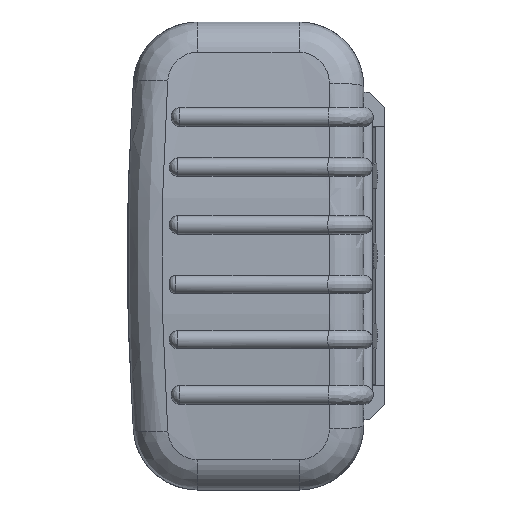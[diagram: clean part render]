
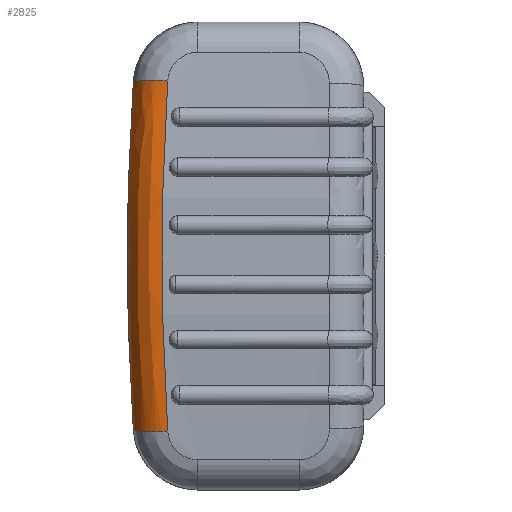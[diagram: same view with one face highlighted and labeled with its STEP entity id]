
A CAD part, left-side view. The second image highlights one B-rep face of the part: STEP entity #2825.
In plain terms, the highlighted free-form (B-spline) face has degree [3, 2] with [6, 3] control points.
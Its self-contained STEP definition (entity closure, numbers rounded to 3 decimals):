
#1558 = CARTESIAN_POINT ( 'NONE',  ( 88.505, 45.446, 40.548 ) ) ;
#1840 = CARTESIAN_POINT ( 'NONE',  ( 89.95, 46.334, -27.032 ) ) ;
#2825 = ADVANCED_FACE ( 'NONE', ( #24955 ), #21779, .T. ) ;
#3262 = CARTESIAN_POINT ( 'NONE',  ( 83.368, 55.225, 0. ) ) ;
#3802 = ORIENTED_EDGE ( 'NONE', *, *, #18348, .T. ) ;
#4005 = CARTESIAN_POINT ( 'NONE',  ( 88.505, 45.446, -40.548 ) ) ;
#4120 = CARTESIAN_POINT ( 'NONE',  ( 80.55, 53.428, -40.234 ) ) ;
#4215 = CARTESIAN_POINT ( 'NONE',  ( 90.667, 54.777, -13.695 ) ) ;
#5038 = VERTEX_POINT ( 'NONE', #14025 ) ;
#5349 = VERTEX_POINT ( 'NONE', #4005 ) ;
#5375 = CARTESIAN_POINT ( 'NONE',  ( 80.55, 45.446, 39.698 ) ) ;
#5608 = B_SPLINE_CURVE_WITH_KNOTS ( 'NONE', 3,
 ( #19004, #28537, #7135, #23805, #9547 ),
 .UNSPECIFIED., .F., .F.,
 ( 4, 1, 4 ),
 ( 0., 0.041, 0.081 ),
 .UNSPECIFIED. ) ;
#5628 = CARTESIAN_POINT ( 'NONE',  ( 80.55, 53.428, -40.234 ) ) ;
#5944 = B_SPLINE_CURVE_WITH_KNOTS ( 'NONE', 3,
 ( #17390, #15137, #3262, #19866, #5628 ),
 .UNSPECIFIED., .F., .F.,
 ( 4, 1, 4 ),
 ( 0., 0.04, 0.08 ),
 .UNSPECIFIED. ) ;
#6617 = CARTESIAN_POINT ( 'NONE',  ( 82.667, 54.777, 13.411 ) ) ;
#6693 = EDGE_CURVE ( 'NONE', #5038, #11713, #5944, .T. ) ;
#7135 = CARTESIAN_POINT ( 'NONE',  ( 91.383, 47.219, 0. ) ) ;
#7774 = DIRECTION ( 'NONE',  ( 0.994, 0., 0.106 ) ) ;
#8918 = CARTESIAN_POINT ( 'NONE',  ( 88.449, 53.371, -41.074 ) ) ;
#9000 = CARTESIAN_POINT ( 'NONE',  ( 90.667, 46.777, 13.516 ) ) ;
#9547 = CARTESIAN_POINT ( 'NONE',  ( 88.505, 45.446, 40.548 ) ) ;
#9640 = DIRECTION ( 'NONE',  ( 0.106, 0.067, 0.992 ) ) ;
#9800 = CIRCLE ( 'NONE', #20406, 8. ) ;
#11417 = CARTESIAN_POINT ( 'NONE',  ( 89.935, 54.311, 27.357 ) ) ;
#11713 = VERTEX_POINT ( 'NONE', #12342 ) ;
#12342 = CARTESIAN_POINT ( 'NONE',  ( 80.55, 53.428, -40.234 ) ) ;
#13722 = CARTESIAN_POINT ( 'NONE',  ( 88.505, 45.446, -40.548 ) ) ;
#13815 = CARTESIAN_POINT ( 'NONE',  ( 80.55, 53.428, 40.234 ) ) ;
#14025 = CARTESIAN_POINT ( 'NONE',  ( 80.55, 53.428, 40.234 ) ) ;
#15137 = CARTESIAN_POINT ( 'NONE',  ( 81.965, 54.328, 26.822 ) ) ;
#16104 = CARTESIAN_POINT ( 'NONE',  ( 89.935, 54.311, -27.357 ) ) ;
#16211 = CARTESIAN_POINT ( 'NONE',  ( 88.505, 45.446, 40.548 ) ) ;
#17080 = ORIENTED_EDGE ( 'NONE', *, *, #6693, .F. ) ;
#17390 = CARTESIAN_POINT ( 'NONE',  ( 80.55, 53.428, 40.234 ) ) ;
#18348 = EDGE_CURVE ( 'NONE', #5349, #11713, #9800, .T. ) ;
#18481 = CARTESIAN_POINT ( 'NONE',  ( 82.667, 54.777, -13.411 ) ) ;
#19004 = CARTESIAN_POINT ( 'NONE',  ( 88.505, 45.446, -40.548 ) ) ;
#19866 = CARTESIAN_POINT ( 'NONE',  ( 81.965, 54.328, -26.822 ) ) ;
#20078 = AXIS2_PLACEMENT_3D ( 'NONE', #5375, #22037, #7774 ) ;
#20109 = CIRCLE ( 'NONE', #20078, 8. ) ;
#20285 = EDGE_LOOP ( 'NONE', ( #3802, #17080, #27342, #30741 ) ) ;
#20299 = VERTEX_POINT ( 'NONE', #1558 ) ;
#20406 = AXIS2_PLACEMENT_3D ( 'NONE', #23897, #9640, #26309 ) ;
#20448 = EDGE_CURVE ( 'NONE', #5349, #20299, #5608, .T. ) ;
#20859 = CARTESIAN_POINT ( 'NONE',  ( 90.667, 46.777, -13.516 ) ) ;
#21779 =( BOUNDED_SURFACE ( )  B_SPLINE_SURFACE ( 3, 2, ( 
 ( #4120, #8918, #13722 ),
 ( #30371, #16104, #1840 ),
 ( #18481, #4215, #20859 ),
 ( #6617, #23290, #9000 ),
 ( #25676, #11417, #28088 ),
 ( #13815, #30468, #16211 ) ),
 .UNSPECIFIED., .F., .F., .F. ) 
 B_SPLINE_SURFACE_WITH_KNOTS ( ( 4, 2, 4 ),
 ( 3, 3 ),
 ( 0., 0.04, 0.079 ),
 ( 0., 1. ),
 .UNSPECIFIED. ) 
 GEOMETRIC_REPRESENTATION_ITEM ( )  RATIONAL_B_SPLINE_SURFACE ( (
 ( 1., 0.71, 1.),
 ( 1., 0.708, 1.),
 ( 1., 0.707, 1.),
 ( 1., 0.707, 1.),
 ( 1., 0.708, 1.),
 ( 1., 0.71, 1.) ) ) 
 REPRESENTATION_ITEM ( '' )  SURFACE ( )  );
#22037 = DIRECTION ( 'NONE',  ( -0.106, -0.067, 0.992 ) ) ;
#23290 = CARTESIAN_POINT ( 'NONE',  ( 90.667, 54.777, 13.695 ) ) ;
#23805 = CARTESIAN_POINT ( 'NONE',  ( 89.95, 46.334, 27.032 ) ) ;
#23897 = CARTESIAN_POINT ( 'NONE',  ( 80.55, 45.446, -39.698 ) ) ;
#24955 = FACE_OUTER_BOUND ( 'NONE', #20285, .T. ) ;
#25676 = CARTESIAN_POINT ( 'NONE',  ( 81.965, 54.328, 26.823 ) ) ;
#26309 = DIRECTION ( 'NONE',  ( 0.994, 0., -0.106 ) ) ;
#27342 = ORIENTED_EDGE ( 'NONE', *, *, #27853, .F. ) ;
#27853 = EDGE_CURVE ( 'NONE', #20299, #5038, #20109, .T. ) ;
#28088 = CARTESIAN_POINT ( 'NONE',  ( 89.95, 46.334, 27.032 ) ) ;
#28537 = CARTESIAN_POINT ( 'NONE',  ( 89.95, 46.334, -27.032 ) ) ;
#30371 = CARTESIAN_POINT ( 'NONE',  ( 81.965, 54.328, -26.823 ) ) ;
#30468 = CARTESIAN_POINT ( 'NONE',  ( 88.449, 53.371, 41.074 ) ) ;
#30741 = ORIENTED_EDGE ( 'NONE', *, *, #20448, .F. ) ;
